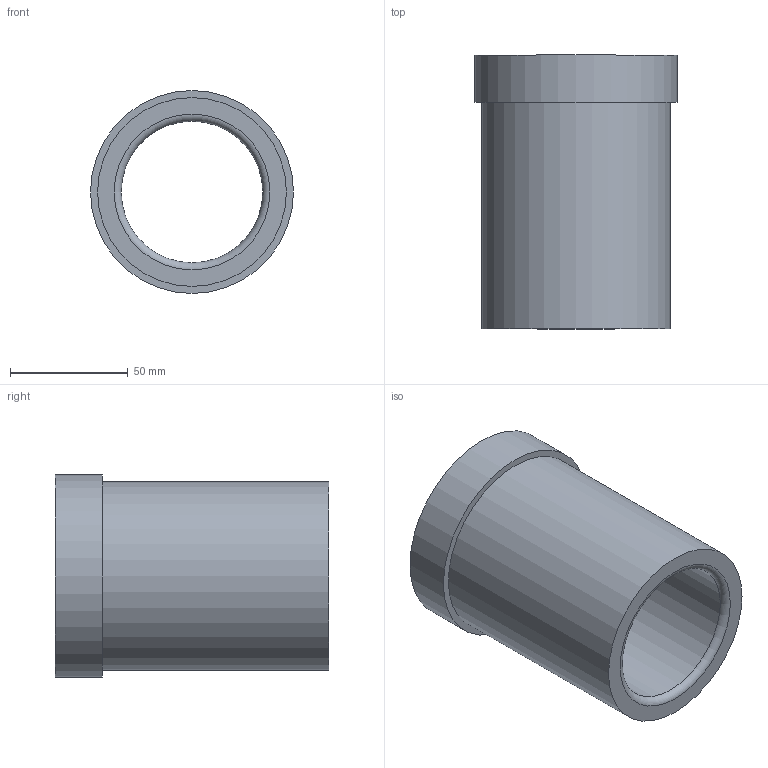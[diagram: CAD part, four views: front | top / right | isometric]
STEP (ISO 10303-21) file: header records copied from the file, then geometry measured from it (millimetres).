
FILE_DESCRIPTION(/* description */ ('STEP AP214'),/* implementation_level */ '2;1');
FILE_NAME(/* name */ '03_12_17964',/* time_stamp */ '2023-06-15T11:35:49+02:00',/* author */ ('License CC BY-ND 4.0'),/* organization */ ('CADENAS'),/* preprocessor_version */ 'ST-DEVELOPER v19.3',/* originating_system */ 'PARTsolutions',/* authorisation */ ' ');
FILE_SCHEMA (('AUTOMOTIVE_DESIGN {1 0 10303 214 3 1 1}'));
Length unit declared in the file: millimetre
Products named in the file (1): VA_Bushing_17964
Bounding box: 86 x 116 x 86 mm (x, y, z)
Volume: 268675.9 mm3; surface area: 56923.1 mm2
Topology: 1 solids, 1 shells, 10 faces, 16 edges, 10 vertices
Faces by surface type: cylinder 4, plane 4, torus 2
Full cylindrical faces by diameter (mm): 60 x1, 60.6 x1, 80 x1, 86 x1
Entity records: 302 total; most frequent: DIRECTION 42, CARTESIAN_POINT 31, AXIS2_PLACEMENT_3D 21, ORIENTED_EDGE 20, EDGE_LOOP 20, FACE_BOUND 20, EDGE_CURVE 10, VERTEX_POINT 10
